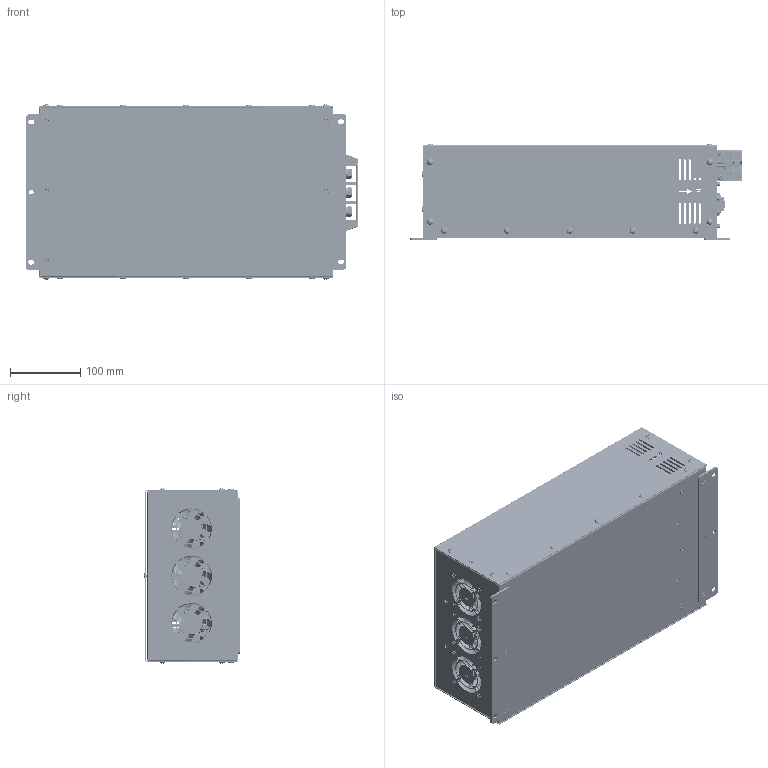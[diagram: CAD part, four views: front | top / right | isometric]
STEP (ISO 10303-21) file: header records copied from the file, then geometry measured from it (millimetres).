
FILE_DESCRIPTION(/* description */ (''),/* implementation_level */ '2;1');
FILE_NAME(/* name */ '',/* time_stamp */ '2026-06-11T09:07:07+09:00',/* author */ ('Administrator'),/* organization */ (''),/* preprocessor_version */ 'ST-DEVELOPER v20.1',/* originating_system */ 'Autodesk Inventor 2026',/* authorisation */ '');
FILE_SCHEMA (('AUTOMOTIVE_DESIGN { 1 0 10303 214 3 1 1 }'));
Products named in the file (1): VX3COM_OLED_2026.06.10_단순화_1
Bounding box: 473.7 x 137.84 x 250.09 mm (x, y, z)
Volume: 738335.5 mm3; surface area: 973487.7 mm2
Topology: 15 solids, 15 shells, 9053 faces, 24118 edges, 15608 vertices
Faces by surface type: plane 5332, cylinder 1962, bspline 1466, torus 166, cone 78, sphere 49
Full cylindrical faces by diameter (mm): 0.013 x9, 0.6 x3, 0.609 x1, 0.61 x27, 0.635 x9, 0.7 x18, 0.75 x18, 0.85 x3, 0.9 x24, 1 x5, 1.397 x9, 1.5 x4, 2.1 x4, 2.286 x9, 2.5 x4, 2.8 x12, 2.957 x12, 3 x6, 3.048 x4, 3.4 x6, 3.6 x19, 3.783 x2, 3.8 x8, 3.9 x2, 4 x27, 4.3 x12, 4.5 x19, 5 x21, 5.3 x20, 5.4 x6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
Entity records: 325962 total; most frequent: CARTESIAN_POINT 95926, ORIENTED_EDGE 48174, DIRECTION 41792, EDGE_CURVE 24087, VERTEX_POINT 15608, LINE 15506, VECTOR 15506, AXIS2_PLACEMENT_3D 13143
